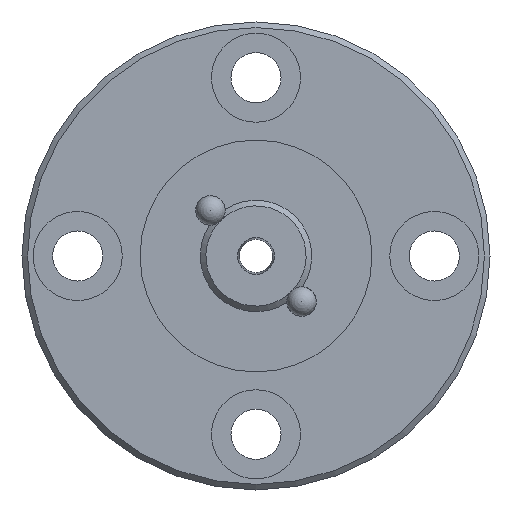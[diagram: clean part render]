
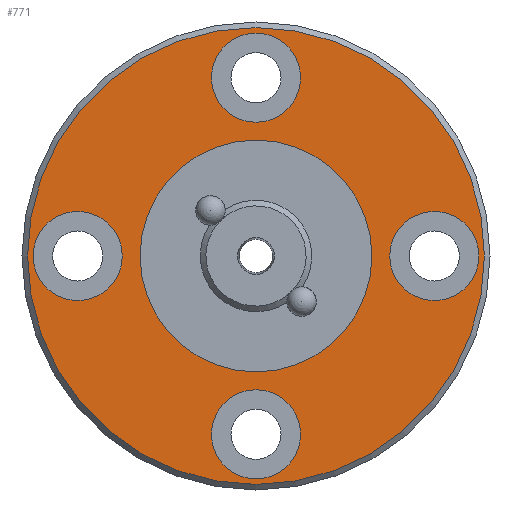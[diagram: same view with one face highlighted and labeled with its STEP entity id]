
A CAD part, left-side view. The second image highlights one B-rep face of the part: STEP entity #771.
In plain terms, the highlighted planar face has unit normal (-1, 0, 0).
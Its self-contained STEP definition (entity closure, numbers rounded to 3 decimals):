
#43=PLANE('',#868);
#97=CIRCLE('',#866,20.5);
#99=CIRCLE('',#869,10.4);
#100=CIRCLE('',#870,4.);
#101=CIRCLE('',#871,4.);
#102=CIRCLE('',#872,4.);
#103=CIRCLE('',#873,4.);
#198=ORIENTED_EDGE('',*,*,#348,.T.);
#199=ORIENTED_EDGE('',*,*,#349,.T.);
#200=ORIENTED_EDGE('',*,*,#350,.T.);
#201=ORIENTED_EDGE('',*,*,#351,.T.);
#202=ORIENTED_EDGE('',*,*,#352,.T.);
#203=ORIENTED_EDGE('',*,*,#346,.T.);
#346=EDGE_CURVE('',#426,#426,#97,.T.);
#348=EDGE_CURVE('',#428,#428,#99,.T.);
#349=EDGE_CURVE('',#429,#429,#100,.T.);
#350=EDGE_CURVE('',#430,#430,#101,.T.);
#351=EDGE_CURVE('',#431,#431,#102,.T.);
#352=EDGE_CURVE('',#432,#432,#103,.T.);
#426=VERTEX_POINT('',#1286);
#428=VERTEX_POINT('',#1291);
#429=VERTEX_POINT('',#1293);
#430=VERTEX_POINT('',#1295);
#431=VERTEX_POINT('',#1297);
#432=VERTEX_POINT('',#1299);
#513=EDGE_LOOP('',(#198));
#514=EDGE_LOOP('',(#199));
#515=EDGE_LOOP('',(#200));
#516=EDGE_LOOP('',(#201));
#517=EDGE_LOOP('',(#202));
#518=EDGE_LOOP('',(#203));
#633=FACE_BOUND('',#513,.T.);
#634=FACE_BOUND('',#514,.T.);
#635=FACE_BOUND('',#515,.T.);
#636=FACE_BOUND('',#516,.T.);
#637=FACE_BOUND('',#517,.T.);
#638=FACE_BOUND('',#518,.T.);
#771=ADVANCED_FACE('',(#633,#634,#635,#636,#637,#638),#43,.F.);
#866=AXIS2_PLACEMENT_3D('',#1285,#1016,#1017);
#868=AXIS2_PLACEMENT_3D('',#1289,#1020,#1021);
#869=AXIS2_PLACEMENT_3D('',#1290,#1022,#1023);
#870=AXIS2_PLACEMENT_3D('',#1292,#1024,#1025);
#871=AXIS2_PLACEMENT_3D('',#1294,#1026,#1027);
#872=AXIS2_PLACEMENT_3D('',#1296,#1028,#1029);
#873=AXIS2_PLACEMENT_3D('',#1298,#1030,#1031);
#1016=DIRECTION('',(-1.,0.,0.));
#1017=DIRECTION('',(0.,0.,1.));
#1020=DIRECTION('',(1.,0.,0.));
#1021=DIRECTION('',(0.,0.,-1.));
#1022=DIRECTION('',(1.,0.,0.));
#1023=DIRECTION('',(0.,0.,-1.));
#1024=DIRECTION('',(1.,0.,0.));
#1025=DIRECTION('',(0.,0.,1.));
#1026=DIRECTION('',(1.,0.,0.));
#1027=DIRECTION('',(0.,0.,1.));
#1028=DIRECTION('',(1.,0.,0.));
#1029=DIRECTION('',(0.,-1.,0.));
#1030=DIRECTION('',(1.,0.,0.));
#1031=DIRECTION('',(0.,-1.,0.));
#1285=CARTESIAN_POINT('',(-16.5,0.,0.));
#1286=CARTESIAN_POINT('',(-16.5,0.,20.5));
#1289=CARTESIAN_POINT('',(-16.5,20.5,0.));
#1290=CARTESIAN_POINT('',(-16.5,0.,0.));
#1291=CARTESIAN_POINT('',(-16.5,0.,-10.4));
#1292=CARTESIAN_POINT('',(-16.5,0.,16.));
#1293=CARTESIAN_POINT('',(-16.5,0.,20.));
#1294=CARTESIAN_POINT('',(-16.5,0.,-16.));
#1295=CARTESIAN_POINT('',(-16.5,0.,-12.));
#1296=CARTESIAN_POINT('',(-16.5,-16.,0.));
#1297=CARTESIAN_POINT('',(-16.5,-20.,0.));
#1298=CARTESIAN_POINT('',(-16.5,16.,0.));
#1299=CARTESIAN_POINT('',(-16.5,12.,0.));
